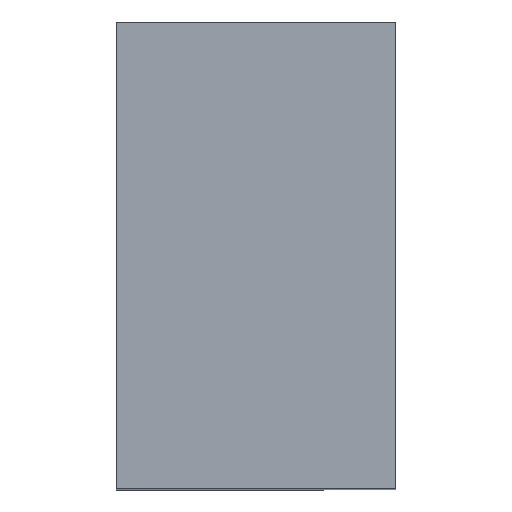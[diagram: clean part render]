
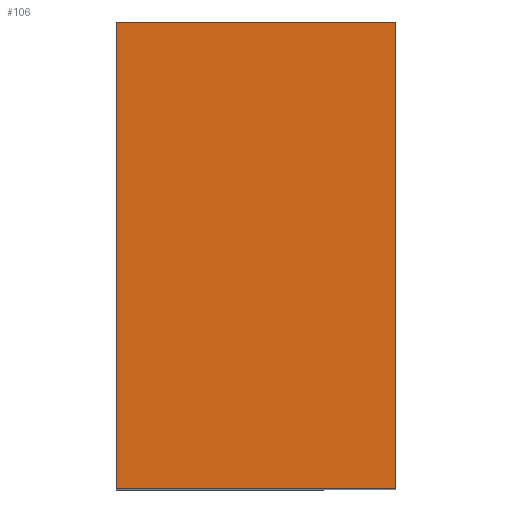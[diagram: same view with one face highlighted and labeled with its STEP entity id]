
A CAD part, top view. The second image highlights one B-rep face of the part: STEP entity #106.
In plain terms, the highlighted planar face has unit normal (0, 0, 1).
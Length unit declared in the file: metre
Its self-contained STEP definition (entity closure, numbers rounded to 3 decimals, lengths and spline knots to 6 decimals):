
#106 = ADVANCED_FACE( '', ( #212 ), #213, .F. );
#212 = FACE_OUTER_BOUND( '', #560, .T. );
#213 = PLANE( '', #561 );
#560 = EDGE_LOOP( '', ( #817, #818, #819, #820 ) );
#561 = AXIS2_PLACEMENT_3D( '', #821, #822, #823 );
#817 = ORIENTED_EDGE( '', *, *, #985, .T. );
#818 = ORIENTED_EDGE( '', *, *, #990, .F. );
#819 = ORIENTED_EDGE( '', *, *, #991, .F. );
#820 = ORIENTED_EDGE( '', *, *, #953, .T. );
#821 = CARTESIAN_POINT( '', ( -0.012, -0.01, 0.01 ) );
#822 = DIRECTION( '', ( 0., 0., -1. ) );
#823 = DIRECTION( '', ( -1., 0., 0. ) );
#953 = EDGE_CURVE( '', #1061, #1059, #1062, .T. );
#985 = EDGE_CURVE( '', #1059, #1115, #1117, .T. );
#990 = EDGE_CURVE( '', #1123, #1115, #1125, .T. );
#991 = EDGE_CURVE( '', #1061, #1123, #1126, .F. );
#1059 = VERTEX_POINT( '', #1483 );
#1061 = VERTEX_POINT( '', #1486 );
#1062 = LINE( '', #1487, #1488 );
#1115 = VERTEX_POINT( '', #1720 );
#1117 = LINE( '', #1723, #1724 );
#1123 = VERTEX_POINT( '', #1764 );
#1125 = LINE( '', #1767, #1768 );
#1126 = LINE( '', #1769, #1770 );
#1483 = CARTESIAN_POINT( '', ( 0., -0.01, 0.01 ) );
#1486 = CARTESIAN_POINT( '', ( -0.012, -0.01, 0.01 ) );
#1487 = CARTESIAN_POINT( '', ( -0.012, -0.01, 0.01 ) );
#1488 = VECTOR( '', #1835, 1. );
#1720 = CARTESIAN_POINT( '', ( 0., 0.01, 0.01 ) );
#1723 = CARTESIAN_POINT( '', ( 0., -0.01, 0.01 ) );
#1724 = VECTOR( '', #1884, 1. );
#1764 = CARTESIAN_POINT( '', ( -0.012, 0.01, 0.01 ) );
#1767 = CARTESIAN_POINT( '', ( -0.012, 0.01, 0.01 ) );
#1768 = VECTOR( '', #1890, 1. );
#1769 = CARTESIAN_POINT( '', ( -0.012, 0.01, 0.01 ) );
#1770 = VECTOR( '', #1891, 1. );
#1835 = DIRECTION( '', ( 1., 0., 0. ) );
#1884 = DIRECTION( '', ( 0., 1., 0. ) );
#1890 = DIRECTION( '', ( 1., 0., 0. ) );
#1891 = DIRECTION( '', ( 0., -1., 0. ) );
